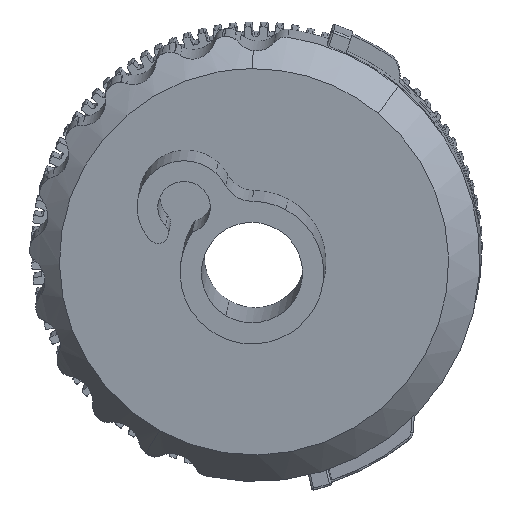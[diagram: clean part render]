
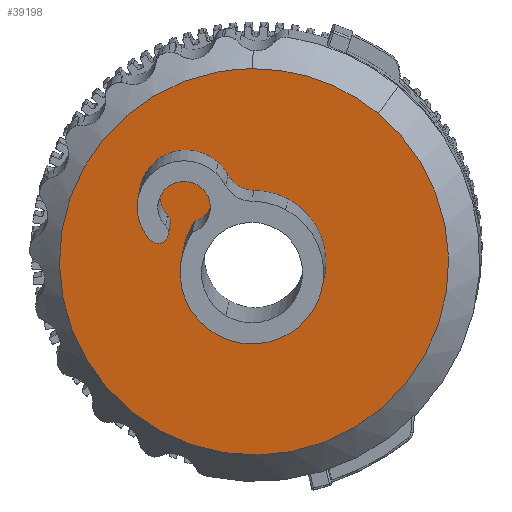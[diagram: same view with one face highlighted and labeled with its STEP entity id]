
A CAD part, left-side view. The second image highlights one B-rep face of the part: STEP entity #39198.
In plain terms, the highlighted planar face has unit normal (-0.992, 0.023, -0.123).
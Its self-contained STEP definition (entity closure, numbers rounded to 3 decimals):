
#11014=AXIS2_PLACEMENT_3D('Circle Axis2P3D',#11012,#11013,$) ;
#11038=AXIS2_PLACEMENT_3D('Circle Axis2P3D',#11036,#11037,$) ;
#11085=AXIS2_PLACEMENT_3D('Circle Axis2P3D',#11083,#11084,$) ;
#11123=AXIS2_PLACEMENT_3D('Circle Axis2P3D',#11121,#11122,$) ;
#11161=AXIS2_PLACEMENT_3D('Circle Axis2P3D',#11159,#11160,$) ;
#11185=AXIS2_PLACEMENT_3D('Circle Axis2P3D',#11183,#11184,$) ;
#11227=AXIS2_PLACEMENT_3D('Circle Axis2P3D',#11225,#11226,$) ;
#21082=AXIS2_PLACEMENT_3D('Circle Axis2P3D',#21080,#21081,$) ;
#21115=AXIS2_PLACEMENT_3D('Circle Axis2P3D',#21113,#21114,$) ;
#21139=AXIS2_PLACEMENT_3D('Circle Axis2P3D',#21137,#21138,$) ;
#39128=AXIS2_PLACEMENT_3D('Plane Axis2P3D',#39125,#39126,#39127) ;
#39132=AXIS2_PLACEMENT_3D('Circle Axis2P3D',#39130,#39131,$) ;
#10995=CARTESIAN_POINT('Vertex',(1113.112,-927.361,253.817)) ;
#11009=CARTESIAN_POINT('Vertex',(1111.977,-924.367,263.558)) ;
#11012=CARTESIAN_POINT('Axis2P3D Location',(1112.247,-930.765,260.159)) ;
#11036=CARTESIAN_POINT('Axis2P3D Location',(1112.247,-930.765,260.159)) ;
#11040=CARTESIAN_POINT('Vertex',(1111.381,-934.17,266.501)) ;
#11075=CARTESIAN_POINT('Vertex',(1111.356,-930.757,267.354)) ;
#11083=CARTESIAN_POINT('Axis2P3D Location',(1112.247,-930.765,260.159)) ;
#11113=CARTESIAN_POINT('Vertex',(1111.223,-928.11,268.933)) ;
#11121=CARTESIAN_POINT('Axis2P3D Location',(1110.988,-930.754,270.332)) ;
#11149=CARTESIAN_POINT('Vertex',(1111.092,-927.141,270.178)) ;
#11159=CARTESIAN_POINT('Axis2P3D Location',(1111.596,-923.924,266.719)) ;
#11183=CARTESIAN_POINT('Axis2P3D Location',(1111.596,-923.924,266.719)) ;
#11187=CARTESIAN_POINT('Vertex',(1112.085,-920.543,263.419)) ;
#11222=CARTESIAN_POINT('Vertex',(1111.885,-924.774,264.225)) ;
#11225=CARTESIAN_POINT('Axis2P3D Location',(1112.247,-930.765,260.159)) ;
#21050=CARTESIAN_POINT('Vertex',(1111.327,-925.838,268.532)) ;
#21054=CARTESIAN_POINT('Control Point',(1111.885,-924.774,264.225)) ;
#21055=CARTESIAN_POINT('Control Point',(1111.82,-925.782,264.561)) ;
#21056=CARTESIAN_POINT('Control Point',(1111.696,-926.623,265.398)) ;
#21057=CARTESIAN_POINT('Control Point',(1111.536,-926.929,266.636)) ;
#21058=CARTESIAN_POINT('Control Point',(1111.404,-926.574,267.767)) ;
#21059=CARTESIAN_POINT('Control Point',(1111.327,-925.838,268.532)) ;
#21080=CARTESIAN_POINT('Axis2P3D Location',(1111.596,-923.924,266.719)) ;
#21084=CARTESIAN_POINT('Vertex',(1111.866,-922.011,264.905)) ;
#21110=CARTESIAN_POINT('Vertex',(1111.869,-922.038,264.878)) ;
#21113=CARTESIAN_POINT('Axis2P3D Location',(1111.596,-923.924,266.719)) ;
#21137=CARTESIAN_POINT('Axis2P3D Location',(1111.977,-921.29,264.148)) ;
#39125=CARTESIAN_POINT('Axis2P3D Location',(1112.247,-930.765,260.159)) ;
#39130=CARTESIAN_POINT('Axis2P3D Location',(1112.247,-930.765,260.159)) ;
#39134=CARTESIAN_POINT('Vertex',(1110.099,-943.283,275.123)) ;
#39136=CARTESIAN_POINT('Vertex',(1109.796,-933.477,279.442)) ;
#39140=CARTESIAN_POINT('Control Point',(1109.839,-930.642,279.637)) ;
#39141=CARTESIAN_POINT('Control Point',(1109.825,-931.211,279.639)) ;
#39142=CARTESIAN_POINT('Control Point',(1109.814,-931.779,279.62)) ;
#39143=CARTESIAN_POINT('Control Point',(1109.805,-932.347,279.581)) ;
#39144=CARTESIAN_POINT('Control Point',(1109.799,-932.913,279.522)) ;
#39145=CARTESIAN_POINT('Control Point',(1109.796,-933.477,279.442)) ;
#39146=CARTESIAN_POINT('Vertex',(1109.839,-930.642,279.637)) ;
#39150=CARTESIAN_POINT('Control Point',(1114.577,-921.257,243.149)) ;
#39151=CARTESIAN_POINT('Control Point',(1114.406,-917.456,245.25)) ;
#39152=CARTESIAN_POINT('Control Point',(1114.093,-914.238,248.394)) ;
#39153=CARTESIAN_POINT('Control Point',(1113.655,-911.999,252.362)) ;
#39154=CARTESIAN_POINT('Control Point',(1112.623,-909.96,261.087)) ;
#39155=CARTESIAN_POINT('Control Point',(1111.504,-912.728,269.597)) ;
#39156=CARTESIAN_POINT('Control Point',(1110.979,-915.295,273.351)) ;
#39157=CARTESIAN_POINT('Control Point',(1110.382,-920.069,277.265)) ;
#39158=CARTESIAN_POINT('Control Point',(1110.018,-925.776,279.116)) ;
#39159=CARTESIAN_POINT('Control Point',(1109.938,-927.381,279.458)) ;
#39160=CARTESIAN_POINT('Control Point',(1109.878,-929.011,279.631)) ;
#39161=CARTESIAN_POINT('Control Point',(1109.839,-930.642,279.637)) ;
#39162=CARTESIAN_POINT('Vertex',(1114.577,-921.257,243.149)) ;
#39166=CARTESIAN_POINT('Control Point',(1114.577,-921.257,243.149)) ;
#39167=CARTESIAN_POINT('Control Point',(1114.747,-925.058,241.048)) ;
#39168=CARTESIAN_POINT('Control Point',(1114.775,-929.441,239.989)) ;
#39169=CARTESIAN_POINT('Control Point',(1114.642,-934.012,240.192)) ;
#39170=CARTESIAN_POINT('Control Point',(1114.084,-942.54,243.075)) ;
#39171=CARTESIAN_POINT('Control Point',(1113.101,-948.347,249.906)) ;
#39172=CARTESIAN_POINT('Control Point',(1112.544,-950.198,254.055)) ;
#39173=CARTESIAN_POINT('Control Point',(1111.603,-951.197,261.461)) ;
#39174=CARTESIAN_POINT('Control Point',(1110.797,-948.872,268.422)) ;
#39175=CARTESIAN_POINT('Control Point',(1110.511,-947.422,271.01)) ;
#39176=CARTESIAN_POINT('Control Point',(1110.275,-945.525,273.272)) ;
#39177=CARTESIAN_POINT('Control Point',(1110.099,-943.283,275.123)) ;
#11013=DIRECTION('Axis2P3D Direction',(-0.992,0.023,-0.123)) ;
#11037=DIRECTION('Axis2P3D Direction',(-0.992,0.023,-0.123)) ;
#11084=DIRECTION('Axis2P3D Direction',(-0.992,0.023,-0.123)) ;
#11122=DIRECTION('Axis2P3D Direction',(-0.992,0.023,-0.123)) ;
#11160=DIRECTION('Axis2P3D Direction',(-0.992,0.023,-0.123)) ;
#11184=DIRECTION('Axis2P3D Direction',(-0.992,0.023,-0.123)) ;
#11226=DIRECTION('Axis2P3D Direction',(-0.992,0.023,-0.123)) ;
#21081=DIRECTION('Axis2P3D Direction',(-0.992,0.023,-0.123)) ;
#21114=DIRECTION('Axis2P3D Direction',(-0.992,0.023,-0.123)) ;
#21138=DIRECTION('Axis2P3D Direction',(-0.992,0.023,-0.123)) ;
#39126=DIRECTION('Axis2P3D Direction',(0.992,-0.023,0.123)) ;
#39127=DIRECTION('Axis2P3D XDirection',(-0.119,-0.484,0.867)) ;
#39131=DIRECTION('Axis2P3D Direction',(0.992,-0.023,0.123)) ;
#39180=ORIENTED_EDGE('',*,*,#39138,.T.) ;
#39181=ORIENTED_EDGE('',*,*,#39148,.F.) ;
#39182=ORIENTED_EDGE('',*,*,#39164,.F.) ;
#39183=ORIENTED_EDGE('',*,*,#39178,.T.) ;
#39186=ORIENTED_EDGE('',*,*,#11229,.T.) ;
#39187=ORIENTED_EDGE('',*,*,#21060,.F.) ;
#39188=ORIENTED_EDGE('',*,*,#21086,.F.) ;
#39189=ORIENTED_EDGE('',*,*,#21117,.F.) ;
#39190=ORIENTED_EDGE('',*,*,#21141,.F.) ;
#39191=ORIENTED_EDGE('',*,*,#11189,.T.) ;
#39192=ORIENTED_EDGE('',*,*,#11163,.T.) ;
#39193=ORIENTED_EDGE('',*,*,#11125,.T.) ;
#39194=ORIENTED_EDGE('',*,*,#11087,.T.) ;
#39195=ORIENTED_EDGE('',*,*,#11042,.T.) ;
#39196=ORIENTED_EDGE('',*,*,#11016,.T.) ;
#39197=FACE_BOUND('',#39185,.T.) ;
#39198=ADVANCED_FACE('20200526\X2\66F465B0\X0\',(#39184,#39197),#39129,.F.) ;
#21053=B_SPLINE_CURVE_WITH_KNOTS('',5,(#21054,#21055,#21056,#21057,#21058,#21059),.UNSPECIFIED.,.F.,.U.,(6,6),(-2.661,2.661),.UNSPECIFIED.) ;
#39139=B_SPLINE_CURVE_WITH_KNOTS('',5,(#39140,#39141,#39142,#39143,#39144,#39145),.UNSPECIFIED.,.F.,.U.,(6,6),(268.036,282.81),.UNSPECIFIED.) ;
#39149=B_SPLINE_CURVE_WITH_KNOTS('',5,(#39150,#39151,#39152,#39153,#39154,#39155,#39156,#39157,#39158,#39159,#39160,#39161),.UNSPECIFIED.,.F.,.U.,(6,3,3,6),(0.,112.836,225.673,268.036),.UNSPECIFIED.) ;
#39165=B_SPLINE_CURVE_WITH_KNOTS('',5,(#39166,#39167,#39168,#39169,#39170,#39171,#39172,#39173,#39174,#39175,#39176,#39177),.UNSPECIFIED.,.F.,.U.,(6,3,3,6),(0.,112.836,225.673,301.295),.UNSPECIFIED.) ;
#11015=CIRCLE('generated circle',#11014,7.25) ;
#11039=CIRCLE('generated circle',#11038,7.25) ;
#11086=CIRCLE('generated circle',#11085,7.25) ;
#11124=CIRCLE('generated circle',#11123,3.) ;
#11162=CIRCLE('generated circle',#11161,4.75) ;
#11186=CIRCLE('generated circle',#11185,4.75) ;
#11228=CIRCLE('generated circle',#11227,7.25) ;
#21083=CIRCLE('generated circle',#21082,2.65) ;
#21116=CIRCLE('generated circle',#21115,2.65) ;
#21140=CIRCLE('generated circle',#21139,1.05) ;
#39133=CIRCLE('generated circle',#39132,19.626) ;
#11016=EDGE_CURVE('',#10996,#11010,#11015,.F.) ;
#11042=EDGE_CURVE('',#11041,#10996,#11039,.F.) ;
#11087=EDGE_CURVE('',#11076,#11041,#11086,.F.) ;
#11125=EDGE_CURVE('',#11114,#11076,#11124,.T.) ;
#11163=EDGE_CURVE('',#11150,#11114,#11162,.F.) ;
#11189=EDGE_CURVE('',#11188,#11150,#11186,.F.) ;
#11229=EDGE_CURVE('',#11010,#11223,#11228,.F.) ;
#21060=EDGE_CURVE('',#21051,#11223,#21053,.F.) ;
#21086=EDGE_CURVE('',#21085,#21051,#21083,.F.) ;
#21117=EDGE_CURVE('',#21111,#21085,#21116,.F.) ;
#21141=EDGE_CURVE('',#11188,#21111,#21140,.T.) ;
#39138=EDGE_CURVE('',#39135,#39137,#39133,.F.) ;
#39148=EDGE_CURVE('',#39147,#39137,#39139,.T.) ;
#39164=EDGE_CURVE('',#39163,#39147,#39149,.T.) ;
#39178=EDGE_CURVE('',#39163,#39135,#39165,.T.) ;
#39179=EDGE_LOOP('',(#39180,#39181,#39182,#39183)) ;
#39185=EDGE_LOOP('',(#39186,#39187,#39188,#39189,#39190,#39191,#39192,#39193,#39194,#39195,#39196)) ;
#39184=FACE_OUTER_BOUND('',#39179,.T.) ;
#39129=PLANE('Plane',#39128) ;
#10996=VERTEX_POINT('',#10995) ;
#11010=VERTEX_POINT('',#11009) ;
#11041=VERTEX_POINT('',#11040) ;
#11076=VERTEX_POINT('',#11075) ;
#11114=VERTEX_POINT('',#11113) ;
#11150=VERTEX_POINT('',#11149) ;
#11188=VERTEX_POINT('',#11187) ;
#11223=VERTEX_POINT('',#11222) ;
#21051=VERTEX_POINT('',#21050) ;
#21085=VERTEX_POINT('',#21084) ;
#21111=VERTEX_POINT('',#21110) ;
#39135=VERTEX_POINT('',#39134) ;
#39137=VERTEX_POINT('',#39136) ;
#39147=VERTEX_POINT('',#39146) ;
#39163=VERTEX_POINT('',#39162) ;
